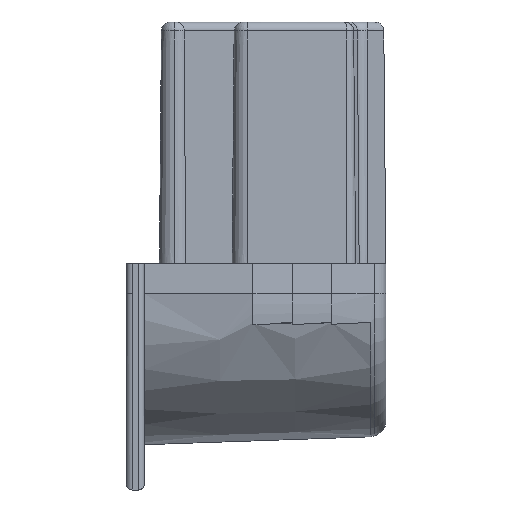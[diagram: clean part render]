
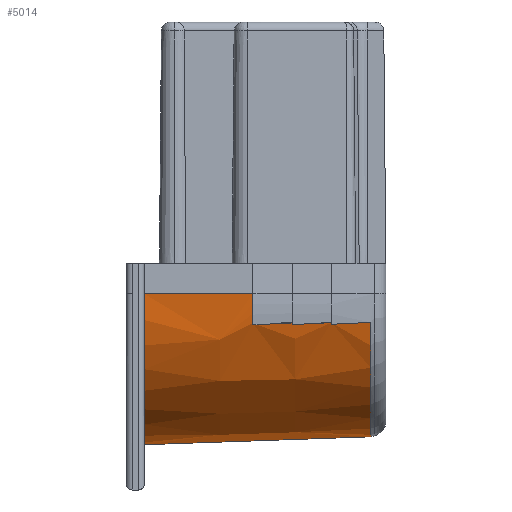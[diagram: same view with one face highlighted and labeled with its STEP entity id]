
A CAD part, left-side view. The second image highlights one B-rep face of the part: STEP entity #5014.
In plain terms, the highlighted conical face has half-angle 2 degrees and reference radius 5 mm.
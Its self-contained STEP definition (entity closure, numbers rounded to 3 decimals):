
#69 = EDGE_CURVE ( 'NONE', #228, #5018, #1565, .T. ) ;
#177 = DIRECTION ( 'NONE',  ( 0., 1., 0. ) ) ;
#228 = VERTEX_POINT ( 'NONE', #1769 ) ;
#283 = VERTEX_POINT ( 'NONE', #2605 ) ;
#287 = AXIS2_PLACEMENT_3D ( 'NONE', #617, #177, #1974 ) ;
#451 = CARTESIAN_POINT ( 'NONE',  ( -8.799, 8., -2. ) ) ;
#473 = ORIENTED_EDGE ( 'NONE', *, *, #4155, .T. ) ;
#576 = CARTESIAN_POINT ( 'NONE',  ( -8.799, 8., -2. ) ) ;
#617 = CARTESIAN_POINT ( 'NONE',  ( -3.9, 0.5, -1. ) ) ;
#686 = DIRECTION ( 'NONE',  ( 0., -1., 0. ) ) ;
#728 = CARTESIAN_POINT ( 'NONE',  ( -8.542, 0.5, -1.948 ) ) ;
#832 = DIRECTION ( 'NONE',  ( 0.034, -0.999, 0.007 ) ) ;
#864 = AXIS2_PLACEMENT_3D ( 'NONE', #1973, #5167, #5608 ) ;
#953 = VECTOR ( 'NONE', #3631, 1000. ) ;
#1068 = CARTESIAN_POINT ( 'NONE',  ( -8.774, 4.4, -1. ) ) ;
#1102 = CIRCLE ( 'NONE', #5449, 4.874 ) ;
#1314 = LINE ( 'NONE', #2240, #953 ) ;
#1425 = CONICAL_SURFACE ( 'NONE', #3230, 5., 0.035 ) ;
#1440 = ORIENTED_EDGE ( 'NONE', *, *, #2416, .F. ) ;
#1459 = VECTOR ( 'NONE', #2490, 1000. ) ;
#1565 = LINE ( 'NONE', #1068, #1459 ) ;
#1634 = ORIENTED_EDGE ( 'NONE', *, *, #69, .F. ) ;
#1769 = CARTESIAN_POINT ( 'NONE',  ( -8.9, 8., -1. ) ) ;
#1836 = VERTEX_POINT ( 'NONE', #4713 ) ;
#1880 = DIRECTION ( 'NONE',  ( 0., 1., 0. ) ) ;
#1906 = EDGE_CURVE ( 'NONE', #5018, #5730, #1102, .T. ) ;
#1932 = DIRECTION ( 'NONE',  ( 0.034, -0.999, 0.007 ) ) ;
#1961 = CARTESIAN_POINT ( 'NONE',  ( -8.676, 4.4, -1.975 ) ) ;
#1973 = CARTESIAN_POINT ( 'NONE',  ( -3.9, 8., -1. ) ) ;
#1974 = DIRECTION ( 'NONE',  ( 0., 0., -1. ) ) ;
#2138 = CARTESIAN_POINT ( 'NONE',  ( -8.799, 8., -2. ) ) ;
#2240 = CARTESIAN_POINT ( 'NONE',  ( -3.9, 4.4, -5.874 ) ) ;
#2278 = VECTOR ( 'NONE', #1932, 1000. ) ;
#2367 = VERTEX_POINT ( 'NONE', #4830 ) ;
#2383 = LINE ( 'NONE', #576, #2278 ) ;
#2416 = EDGE_CURVE ( 'NONE', #5730, #283, #2609, .T. ) ;
#2417 = EDGE_CURVE ( 'NONE', #2367, #4186, #2583, .T. ) ;
#2490 = DIRECTION ( 'NONE',  ( 0.035, -0.999, 0. ) ) ;
#2496 = DIRECTION ( 'NONE',  ( -1., 0., 0. ) ) ;
#2583 = LINE ( 'NONE', #2138, #4346 ) ;
#2605 = CARTESIAN_POINT ( 'NONE',  ( -8.631, 3.1, -1.966 ) ) ;
#2609 = LINE ( 'NONE', #451, #4062 ) ;
#2754 = CIRCLE ( 'NONE', #864, 5. ) ;
#2834 = CIRCLE ( 'NONE', #287, 4.738 ) ;
#2934 = CARTESIAN_POINT ( 'NONE',  ( -3.9, 4.4, -1. ) ) ;
#3079 = EDGE_CURVE ( 'NONE', #3585, #4186, #2834, .T. ) ;
#3162 = ORIENTED_EDGE ( 'NONE', *, *, #3322, .F. ) ;
#3174 = EDGE_LOOP ( 'NONE', ( #473, #4358, #4839, #3441, #3162, #1440, #3945, #1634 ) ) ;
#3230 = AXIS2_PLACEMENT_3D ( 'NONE', #4543, #1880, #5045 ) ;
#3247 = FACE_OUTER_BOUND ( 'NONE', #3174, .T. ) ;
#3322 = EDGE_CURVE ( 'NONE', #283, #2367, #2383, .T. ) ;
#3399 = EDGE_CURVE ( 'NONE', #1836, #3585, #1314, .T. ) ;
#3441 = ORIENTED_EDGE ( 'NONE', *, *, #2417, .F. ) ;
#3585 = VERTEX_POINT ( 'NONE', #5703 ) ;
#3631 = DIRECTION ( 'NONE',  ( 0., -0.999, 0.035 ) ) ;
#3723 = CARTESIAN_POINT ( 'NONE',  ( -8.774, 4.4, -1. ) ) ;
#3945 = ORIENTED_EDGE ( 'NONE', *, *, #1906, .F. ) ;
#4062 = VECTOR ( 'NONE', #832, 1000. ) ;
#4155 = EDGE_CURVE ( 'NONE', #228, #1836, #2754, .T. ) ;
#4186 = VERTEX_POINT ( 'NONE', #728 ) ;
#4346 = VECTOR ( 'NONE', #4419, 1000. ) ;
#4358 = ORIENTED_EDGE ( 'NONE', *, *, #3399, .T. ) ;
#4419 = DIRECTION ( 'NONE',  ( 0.034, -0.999, 0.007 ) ) ;
#4543 = CARTESIAN_POINT ( 'NONE',  ( -3.9, 8., -1. ) ) ;
#4713 = CARTESIAN_POINT ( 'NONE',  ( -3.9, 8., -6. ) ) ;
#4830 = CARTESIAN_POINT ( 'NONE',  ( -8.587, 1.8, -1.957 ) ) ;
#4839 = ORIENTED_EDGE ( 'NONE', *, *, #3079, .T. ) ;
#5014 = ADVANCED_FACE ( 'NONE', ( #3247 ), #1425, .T. ) ;
#5018 = VERTEX_POINT ( 'NONE', #3723 ) ;
#5045 = DIRECTION ( 'NONE',  ( 0., 0., 1. ) ) ;
#5167 = DIRECTION ( 'NONE',  ( 0., -1., 0. ) ) ;
#5449 = AXIS2_PLACEMENT_3D ( 'NONE', #2934, #686, #2496 ) ;
#5608 = DIRECTION ( 'NONE',  ( -1., 0., 0. ) ) ;
#5703 = CARTESIAN_POINT ( 'NONE',  ( -3.9, 0.5, -5.738 ) ) ;
#5730 = VERTEX_POINT ( 'NONE', #1961 ) ;
